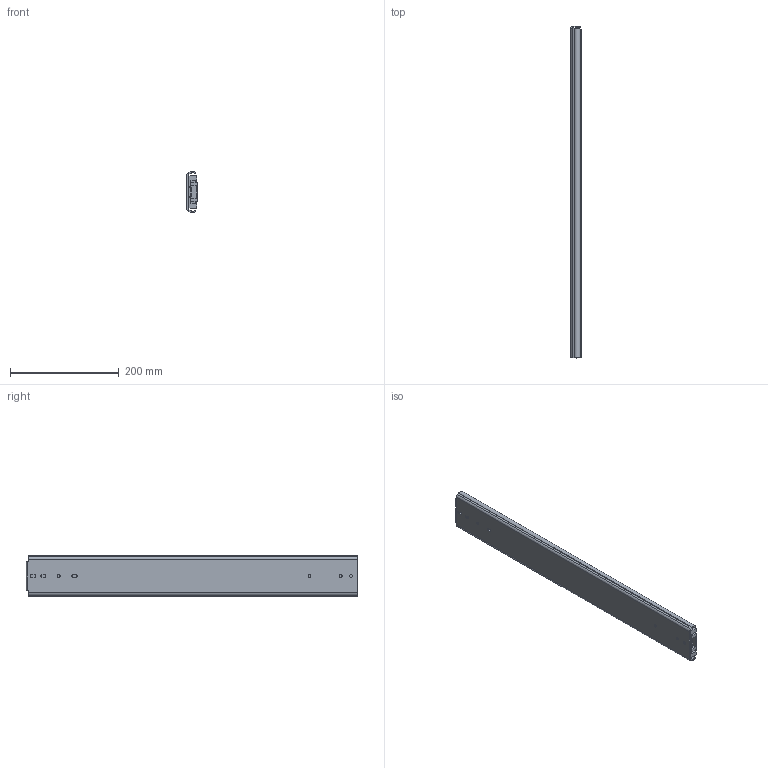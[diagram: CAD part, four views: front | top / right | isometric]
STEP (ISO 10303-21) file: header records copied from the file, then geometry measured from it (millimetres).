
FILE_DESCRIPTION(/* description */ ('Unknown'),/* implementation_level */ '2;1');
FILE_NAME(/* name */ '76J01-24 close',/* time_stamp */ '2024-07-26T15:47:53+08:00',/* author */ ('Unknown'),/* organization */ ('Unknown'),/* preprocessor_version */ 'ST-DEVELOPER v18.104',/* originating_system */ 'Solid Edge',/* authorisation */ 'Unknown');
FILE_SCHEMA (('AUTOMOTIVE_DESIGN {1 0 10303 214 3 1 1}'));
Length unit declared in the file: millimetre
Products named in the file (4): 76J01-24 close; 76J01 24 inch ､ｺﾐ甅ﾀ; 76J01 24 ｦT倶ｸｭ; 76J01 24 吋
Assembly tree (3 placements, depth 2):
  76J01-24 close
    76J01 24 inch ､ｺﾐ甅ﾀ
    76J01 24 ｦT倶ｸｭ
    76J01 24 吋
Bounding box: 19.3 x 609.6 x 76.76 mm (x, y, z)
Volume: 475646.5 mm3; surface area: 296806.9 mm2
Topology: 3 solids, 3 shells, 188 faces, 575 edges, 387 vertices
Faces by surface type: plane 104, cylinder 84
Full cylindrical faces by diameter (mm): 5.2 x9, 7.1 x2
Entity records: 6871 total; most frequent: CARTESIAN_POINT 1124, ORIENTED_EDGE 1106, DIRECTION 1105, EDGE_CURVE 553, LINE 383, VECTOR 383, VERTEX_POINT 376, AXIS2_PLACEMENT_3D 361
